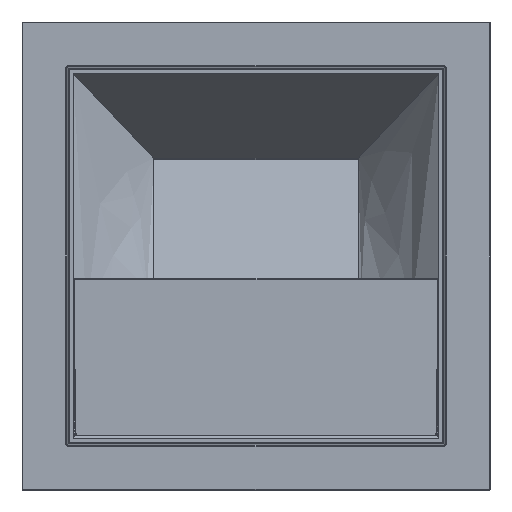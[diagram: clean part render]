
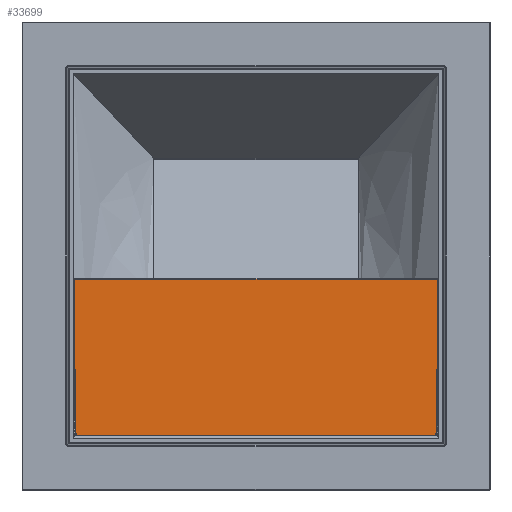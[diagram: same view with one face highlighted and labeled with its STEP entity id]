
A CAD part, front view. The second image highlights one B-rep face of the part: STEP entity #33699.
In plain terms, the highlighted planar face has unit normal (0, -1, 0).
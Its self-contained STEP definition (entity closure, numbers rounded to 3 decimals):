
#613 = VECTOR ( 'NONE', #39153, 1000. ) ;
#1579 = VERTEX_POINT ( 'NONE', #37715 ) ;
#2434 = CARTESIAN_POINT ( 'NONE',  ( -9.895, 0.004, 36.432 ) ) ;
#2824 = CARTESIAN_POINT ( 'NONE',  ( -36.02, 0.004, 36.288 ) ) ;
#3873 = EDGE_LOOP ( 'NONE', ( #34952, #8419, #10523, #36105 ) ) ;
#4941 = CARTESIAN_POINT ( 'NONE',  ( -36.481, 0.004, 37.707 ) ) ;
#5422 = CARTESIAN_POINT ( 'NONE',  ( -15.12, 0.004, 36.414 ) ) ;
#5620 = LINE ( 'NONE', #27450, #37017 ) ;
#6748 = CARTESIAN_POINT ( 'NONE',  ( -30.795, 0.004, -36.336 ) ) ;
#6981 = EDGE_CURVE ( 'NONE', #1579, #20313, #13094, .T. ) ;
#6999 = EDGE_CURVE ( 'NONE', #13608, #1579, #14956, .T. ) ;
#8419 = ORIENTED_EDGE ( 'NONE', *, *, #35897, .T. ) ;
#8515 = DIRECTION ( 'NONE',  ( 0., 1., 0. ) ) ;
#9948 = CARTESIAN_POINT ( 'NONE',  ( -4.67, 0.004, -36.446 ) ) ;
#10523 = ORIENTED_EDGE ( 'NONE', *, *, #6999, .T. ) ;
#13094 = B_SPLINE_CURVE_WITH_KNOTS ( 'NONE', 3,
 ( #32600, #2434, #5422, #30034, #23523, #2824 ),
 .UNSPECIFIED., .F., .F.,
 ( 4, 2, 4 ),
 ( 0., 0.016, 0.031 ),
 .UNSPECIFIED. ) ;
#13608 = VERTEX_POINT ( 'NONE', #17046 ) ;
#13866 = AXIS2_PLACEMENT_3D ( 'NONE', #4941, #8515, #20639 ) ;
#14132 = CARTESIAN_POINT ( 'NONE',  ( -36.02, 0.004, -36.288 ) ) ;
#14956 = LINE ( 'NONE', #26667, #613 ) ;
#15895 = CARTESIAN_POINT ( 'NONE',  ( -9.895, 0.004, -36.432 ) ) ;
#17046 = CARTESIAN_POINT ( 'NONE',  ( -4.67, 0.004, -36.446 ) ) ;
#17568 = VERTEX_POINT ( 'NONE', #14132 ) ;
#18862 = CARTESIAN_POINT ( 'NONE',  ( -25.57, 0.004, -36.366 ) ) ;
#20313 = VERTEX_POINT ( 'NONE', #25715 ) ;
#20639 = DIRECTION ( 'NONE',  ( 0., 0., 1. ) ) ;
#22600 = B_SPLINE_CURVE_WITH_KNOTS ( 'NONE', 3,
 ( #33958, #6748, #18862, #30958, #15895, #9948 ),
 .UNSPECIFIED., .F., .F.,
 ( 4, 2, 4 ),
 ( 0., 0.016, 0.031 ),
 .UNSPECIFIED. ) ;
#23523 = CARTESIAN_POINT ( 'NONE',  ( -30.795, 0.004, 36.336 ) ) ;
#24948 = EDGE_CURVE ( 'NONE', #20313, #17568, #5620, .T. ) ;
#25715 = CARTESIAN_POINT ( 'NONE',  ( -36.02, 0.004, 36.288 ) ) ;
#26667 = CARTESIAN_POINT ( 'NONE',  ( -4.67, 0.004, 37.707 ) ) ;
#27450 = CARTESIAN_POINT ( 'NONE',  ( -36.02, 0.004, 37.707 ) ) ;
#29177 = PLANE ( 'NONE',  #13866 ) ;
#30034 = CARTESIAN_POINT ( 'NONE',  ( -25.57, 0.004, 36.366 ) ) ;
#30958 = CARTESIAN_POINT ( 'NONE',  ( -15.12, 0.004, -36.414 ) ) ;
#32600 = CARTESIAN_POINT ( 'NONE',  ( -4.67, 0.004, 36.446 ) ) ;
#33699 = ADVANCED_FACE ( 'NONE', ( #35339 ), #29177, .F. ) ;
#33958 = CARTESIAN_POINT ( 'NONE',  ( -36.02, 0.004, -36.288 ) ) ;
#34952 = ORIENTED_EDGE ( 'NONE', *, *, #24948, .T. ) ;
#35339 = FACE_OUTER_BOUND ( 'NONE', #3873, .T. ) ;
#35802 = DIRECTION ( 'NONE',  ( 0., 0., -1. ) ) ;
#35897 = EDGE_CURVE ( 'NONE', #17568, #13608, #22600, .T. ) ;
#36105 = ORIENTED_EDGE ( 'NONE', *, *, #6981, .T. ) ;
#37017 = VECTOR ( 'NONE', #35802, 1000. ) ;
#37715 = CARTESIAN_POINT ( 'NONE',  ( -4.67, 0.004, 36.446 ) ) ;
#39153 = DIRECTION ( 'NONE',  ( 0., 0., 1. ) ) ;
